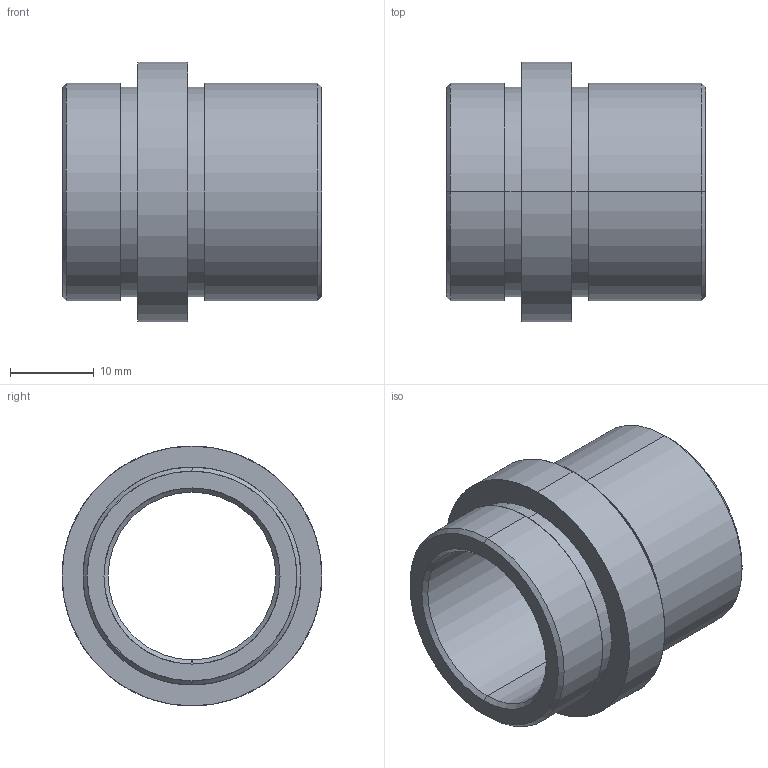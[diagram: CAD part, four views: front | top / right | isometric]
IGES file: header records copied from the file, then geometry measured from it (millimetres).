
Start section: SolidWorks IGES FILE using analytic representation for surfaces
Global section: file name: D:\zzzzz\Delta\D21\20\D21 - 20x22.IGS; native system: SolidWorks 2004 by SolidWorks Corporation; preprocessor: Version 5.3; author: Hkn; date: 080326.191915; units: millimetre
Bounding box: 31 x 31 x 31 mm (x, y, z)
Surface area: 5518.4 mm2 (no closed solid volume)
Topology: 0 solids, 0 shells, 26 faces, 528 edges, 528 vertices
Faces by surface type: revolution 20, bspline 6
